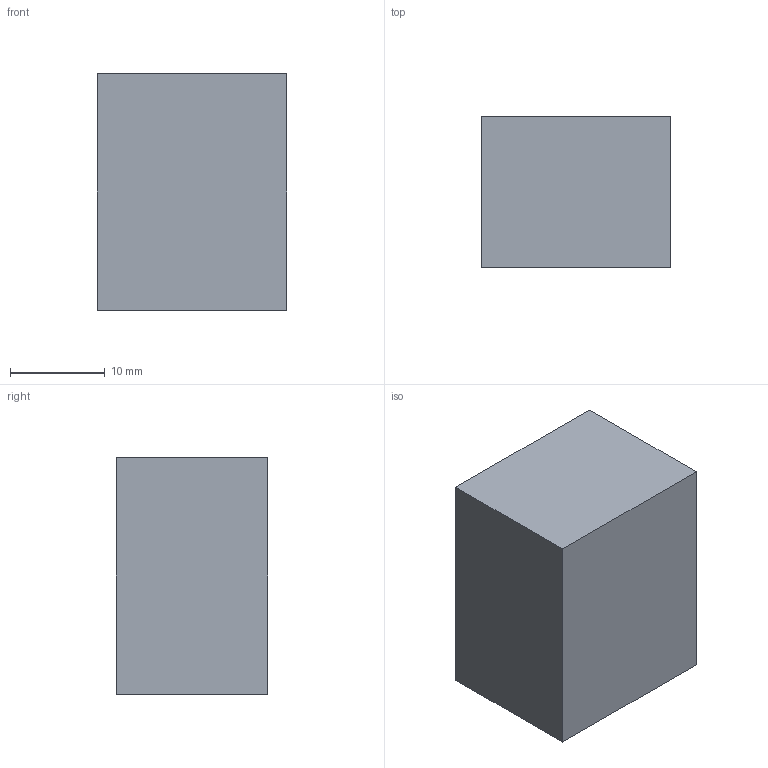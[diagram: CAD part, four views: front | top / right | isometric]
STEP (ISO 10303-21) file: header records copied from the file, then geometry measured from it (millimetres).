
FILE_DESCRIPTION(('Open CASCADE Model'),'2;1');
FILE_NAME('Open CASCADE Shape Model','2026-10-16T18:52:00',('Author'),( 'Open CASCADE'),'Open CASCADE STEP processor 7.8','Open CASCADE 7.8' ,'Unknown');
FILE_SCHEMA(('AUTOMOTIVE_DESIGN { 1 0 10303 214 1 1 1 1 }'));
Length unit declared in the file: millimetre
Products named in the file (1): Open CASCADE STEP translator 7.8 42
Bounding box: 20 x 16 x 25 mm (x, y, z)
Volume: 8000 mm3; surface area: 2440 mm2
Topology: 1 solids, 1 shells, 6 faces, 12 edges, 8 vertices
Faces by surface type: plane 6
Entity records: 322 total; most frequent: CARTESIAN_POINT 51, DIRECTION 50, LINE 36, VECTOR 36, ORIENTED_EDGE 24, PCURVE 24, DEFINITIONAL_REPRESENTATION 24, EDGE_CURVE 12
